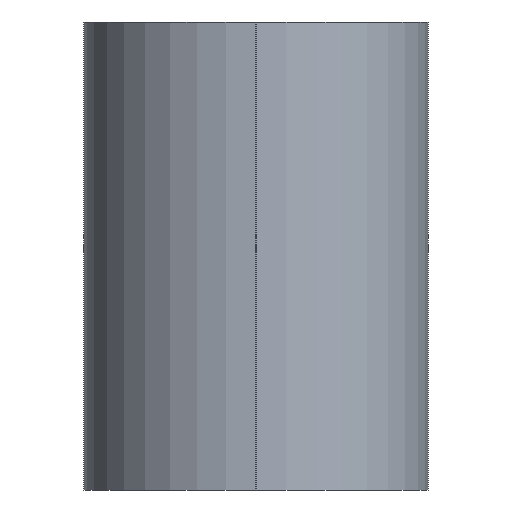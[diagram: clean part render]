
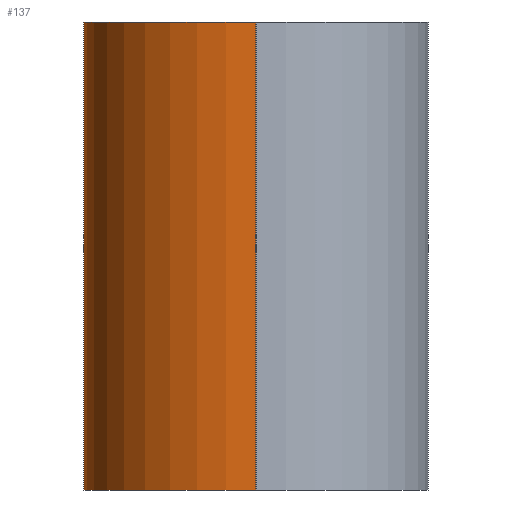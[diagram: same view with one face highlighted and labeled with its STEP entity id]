
A CAD part, left-side view. The second image highlights one B-rep face of the part: STEP entity #137.
In plain terms, the highlighted cylindrical face has radius 1.249 mm (diameter 2.498 mm), a partial arc.
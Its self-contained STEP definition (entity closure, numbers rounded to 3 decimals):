
#22 = VERTEX_POINT('',#23);
#23 = CARTESIAN_POINT('',(-4.,-10.499,11.));
#32 = PLANE('',#33);
#33 = AXIS2_PLACEMENT_3D('',#34,#35,#36);
#34 = CARTESIAN_POINT('',(-4.,-10.499,11.));
#35 = DIRECTION('',(-1.,0.,0.));
#36 = DIRECTION('',(0.,-1.,0.));
#44 = PLANE('',#45);
#45 = AXIS2_PLACEMENT_3D('',#46,#47,#48);
#46 = CARTESIAN_POINT('',(0.,-10.5,11.));
#47 = DIRECTION('',(0.,0.,1.));
#48 = DIRECTION('',(1.,0.,-0.));
#85 = VERTEX_POINT('',#86);
#86 = CARTESIAN_POINT('',(-4.,-10.499,14.4));
#100 = PLANE('',#101);
#101 = AXIS2_PLACEMENT_3D('',#102,#103,#104);
#102 = CARTESIAN_POINT('',(0.,-10.5,14.4));
#103 = DIRECTION('',(0.,0.,1.));
#104 = DIRECTION('',(1.,0.,-0.));
#112 = EDGE_CURVE('',#22,#85,#113,.T.);
#113 = SURFACE_CURVE('',#114,(#118,#125),.PCURVE_S1.);
#114 = LINE('',#115,#116);
#115 = CARTESIAN_POINT('',(-4.,-10.499,11.));
#116 = VECTOR('',#117,1.);
#117 = DIRECTION('',(0.,0.,1.));
#118 = PCURVE('',#32,#119);
#119 = DEFINITIONAL_REPRESENTATION('',(#120),#124);
#120 = LINE('',#121,#122);
#121 = CARTESIAN_POINT('',(0.,0.));
#122 = VECTOR('',#123,1.);
#123 = DIRECTION('',(0.,1.));
#124 = ( GEOMETRIC_REPRESENTATION_CONTEXT(2) 
PARAMETRIC_REPRESENTATION_CONTEXT() REPRESENTATION_CONTEXT('2D SPACE',''
  ) );
#125 = PCURVE('',#126,#131);
#126 = CYLINDRICAL_SURFACE('',#127,1.249);
#127 = AXIS2_PLACEMENT_3D('',#128,#129,#130);
#128 = CARTESIAN_POINT('',(-2.751,-10.499,11.));
#129 = DIRECTION('',(0.,0.,1.));
#130 = DIRECTION('',(0.,1.,0.));
#131 = DEFINITIONAL_REPRESENTATION('',(#132),#136);
#132 = LINE('',#133,#134);
#133 = CARTESIAN_POINT('',(1.571,0.));
#134 = VECTOR('',#135,1.);
#135 = DIRECTION('',(0.,1.));
#136 = ( GEOMETRIC_REPRESENTATION_CONTEXT(2) 
PARAMETRIC_REPRESENTATION_CONTEXT() REPRESENTATION_CONTEXT('2D SPACE',''
  ) );
#137 = ADVANCED_FACE('',(#138),#126,.T.);
#138 = FACE_BOUND('',#139,.T.);
#139 = EDGE_LOOP('',(#140,#164,#165,#189));
#140 = ORIENTED_EDGE('',*,*,#141,.T.);
#141 = EDGE_CURVE('',#142,#22,#144,.T.);
#142 = VERTEX_POINT('',#143);
#143 = CARTESIAN_POINT('',(-2.751,-9.25,11.));
#144 = SURFACE_CURVE('',#145,(#150,#157),.PCURVE_S1.);
#145 = CIRCLE('',#146,1.249);
#146 = AXIS2_PLACEMENT_3D('',#147,#148,#149);
#147 = CARTESIAN_POINT('',(-2.751,-10.499,11.));
#148 = DIRECTION('',(0.,-0.,1.));
#149 = DIRECTION('',(0.,1.,0.));
#150 = PCURVE('',#126,#151);
#151 = DEFINITIONAL_REPRESENTATION('',(#152),#156);
#152 = LINE('',#153,#154);
#153 = CARTESIAN_POINT('',(0.,0.));
#154 = VECTOR('',#155,1.);
#155 = DIRECTION('',(1.,0.));
#156 = ( GEOMETRIC_REPRESENTATION_CONTEXT(2) 
PARAMETRIC_REPRESENTATION_CONTEXT() REPRESENTATION_CONTEXT('2D SPACE',''
  ) );
#157 = PCURVE('',#44,#158);
#158 = DEFINITIONAL_REPRESENTATION('',(#159),#163);
#159 = CIRCLE('',#160,1.249);
#160 = AXIS2_PLACEMENT_2D('',#161,#162);
#161 = CARTESIAN_POINT('',(-2.751,0.001));
#162 = DIRECTION('',(0.,1.));
#163 = ( GEOMETRIC_REPRESENTATION_CONTEXT(2) 
PARAMETRIC_REPRESENTATION_CONTEXT() REPRESENTATION_CONTEXT('2D SPACE',''
  ) );
#164 = ORIENTED_EDGE('',*,*,#112,.T.);
#165 = ORIENTED_EDGE('',*,*,#166,.F.);
#166 = EDGE_CURVE('',#167,#85,#169,.T.);
#167 = VERTEX_POINT('',#168);
#168 = CARTESIAN_POINT('',(-2.751,-9.25,14.4));
#169 = SURFACE_CURVE('',#170,(#175,#182),.PCURVE_S1.);
#170 = CIRCLE('',#171,1.249);
#171 = AXIS2_PLACEMENT_3D('',#172,#173,#174);
#172 = CARTESIAN_POINT('',(-2.751,-10.499,14.4));
#173 = DIRECTION('',(0.,-0.,1.));
#174 = DIRECTION('',(0.,1.,0.));
#175 = PCURVE('',#126,#176);
#176 = DEFINITIONAL_REPRESENTATION('',(#177),#181);
#177 = LINE('',#178,#179);
#178 = CARTESIAN_POINT('',(0.,3.4));
#179 = VECTOR('',#180,1.);
#180 = DIRECTION('',(1.,0.));
#181 = ( GEOMETRIC_REPRESENTATION_CONTEXT(2) 
PARAMETRIC_REPRESENTATION_CONTEXT() REPRESENTATION_CONTEXT('2D SPACE',''
  ) );
#182 = PCURVE('',#100,#183);
#183 = DEFINITIONAL_REPRESENTATION('',(#184),#188);
#184 = CIRCLE('',#185,1.249);
#185 = AXIS2_PLACEMENT_2D('',#186,#187);
#186 = CARTESIAN_POINT('',(-2.751,0.001));
#187 = DIRECTION('',(0.,1.));
#188 = ( GEOMETRIC_REPRESENTATION_CONTEXT(2) 
PARAMETRIC_REPRESENTATION_CONTEXT() REPRESENTATION_CONTEXT('2D SPACE',''
  ) );
#189 = ORIENTED_EDGE('',*,*,#190,.F.);
#190 = EDGE_CURVE('',#142,#167,#191,.T.);
#191 = SURFACE_CURVE('',#192,(#196,#203),.PCURVE_S1.);
#192 = LINE('',#193,#194);
#193 = CARTESIAN_POINT('',(-2.751,-9.25,11.));
#194 = VECTOR('',#195,1.);
#195 = DIRECTION('',(0.,0.,1.));
#196 = PCURVE('',#126,#197);
#197 = DEFINITIONAL_REPRESENTATION('',(#198),#202);
#198 = LINE('',#199,#200);
#199 = CARTESIAN_POINT('',(0.,0.));
#200 = VECTOR('',#201,1.);
#201 = DIRECTION('',(0.,1.));
#202 = ( GEOMETRIC_REPRESENTATION_CONTEXT(2) 
PARAMETRIC_REPRESENTATION_CONTEXT() REPRESENTATION_CONTEXT('2D SPACE',''
  ) );
#203 = PCURVE('',#204,#209);
#204 = PLANE('',#205);
#205 = AXIS2_PLACEMENT_3D('',#206,#207,#208);
#206 = CARTESIAN_POINT('',(2.751,-9.25,11.));
#207 = DIRECTION('',(0.,1.,0.));
#208 = DIRECTION('',(-1.,0.,0.));
#209 = DEFINITIONAL_REPRESENTATION('',(#210),#214);
#210 = LINE('',#211,#212);
#211 = CARTESIAN_POINT('',(5.502,0.));
#212 = VECTOR('',#213,1.);
#213 = DIRECTION('',(0.,1.));
#214 = ( GEOMETRIC_REPRESENTATION_CONTEXT(2) 
PARAMETRIC_REPRESENTATION_CONTEXT() REPRESENTATION_CONTEXT('2D SPACE',''
  ) );
